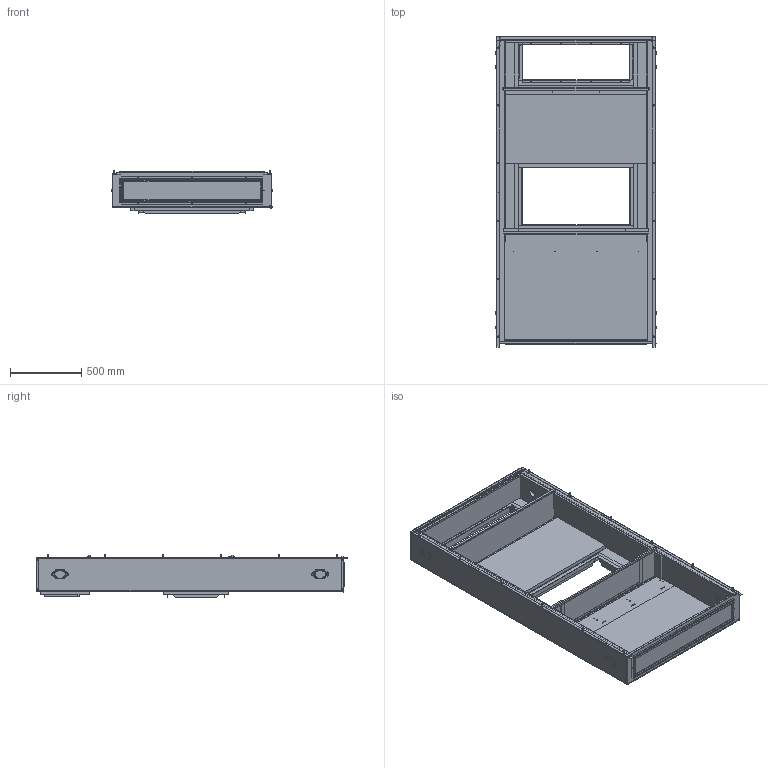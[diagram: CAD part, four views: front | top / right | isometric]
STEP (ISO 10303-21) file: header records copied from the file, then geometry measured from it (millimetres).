
FILE_DESCRIPTION (( 'STEP AP214' ), '1' );
FILE_NAME ('TCURBF3642.STEP', '2017-06-14T19:23:03', ( 'BMC' ), ( 'Bard Manufacturing Co., Inc.' ), 'SwSTEP 2.0', 'SolidWorks 2017', '' );
FILE_SCHEMA (( 'AUTOMOTIVE_DESIGN' ));
Length unit declared in the file: inch
Products named in the file (1): TCURBF3642
Bounding box: 1131.93 x 2186.38 x 299.25 mm (x, y, z)
Volume: 48793871.2 mm3; surface area: 17412888 mm2
Topology: 86 solids, 86 shells, 3951 faces, 9587 edges, 5618 vertices
Faces by surface type: plane 1503, cylinder 1000, cone 688, bspline 564, torus 180, sphere 16
Entity records: 203579 total; most frequent: CARTESIAN_POINT 61913, ORIENTED_EDGE 18598, DIRECTION 18083, EDGE_CURVE 9299, AXIS2_PLACEMENT_3D 6600, VERTEX_POINT 5618, VECTOR 4883, LINE 4883
